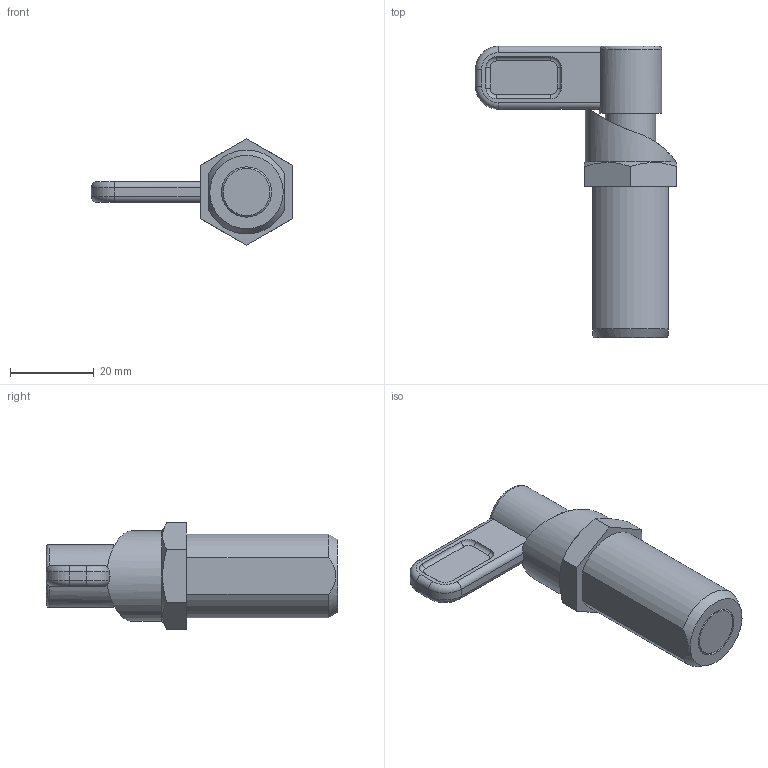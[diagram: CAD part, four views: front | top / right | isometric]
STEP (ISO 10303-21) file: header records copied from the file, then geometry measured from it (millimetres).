
FILE_DESCRIPTION( ( 'STEP AP203' ), '1' );
FILE_NAME( 'C:/Temp/Ganter_Step_05_03_2020/data/3_1/gn_612.8/gn612_8_a/Indexing plunger GN 612.8-12-M20x1,5-A (activated).stp', '2020-03-12T09:12:27', ( 'License CC BY-ND 4.0' ), ( 'CADENAS' ), ' ', 'PARTsolutions', ' ' );
FILE_SCHEMA( ( 'CONFIG_CONTROL_DESIGN' ) );
Length unit declared in the file: millimetre
Products named in the file (3): Indexing plunger GN 612.8-12-M20x1,5-A (activated); _Indexing plunger GN 612.8-12-M20x1,5-A (2)_2; _Rastriegel GN 612.8-12-M20x1,5-A (2)_1
Assembly tree (2 placements, depth 2):
  Indexing plunger GN 612.8-12-M20x1,5-A (activated)
    _Indexing plunger GN 612.8-12-M20x1,5-A (2)_2
    _Rastriegel GN 612.8-12-M20x1,5-A (2)_1
Bounding box: 48 x 69.5 x 25.4 mm (x, y, z)
Volume: 20156.7 mm3; surface area: 10015.2 mm2
Topology: 2 solids, 2 shells, 72 faces, 166 edges, 107 vertices
Faces by surface type: cylinder 31, plane 25, torus 13, cone 3
Full cylindrical faces by diameter (mm): 12 x4, 13 x2, 15 x1, 15.5 x1, 21.5 x1
Entity records: 2441 total; most frequent: CARTESIAN_POINT 737, DIRECTION 350, ORIENTED_EDGE 304, EDGE_CURVE 152, AXIS2_PLACEMENT_3D 148, VERTEX_POINT 104, EDGE_LOOP 94, FACE_OUTER_BOUND 80
